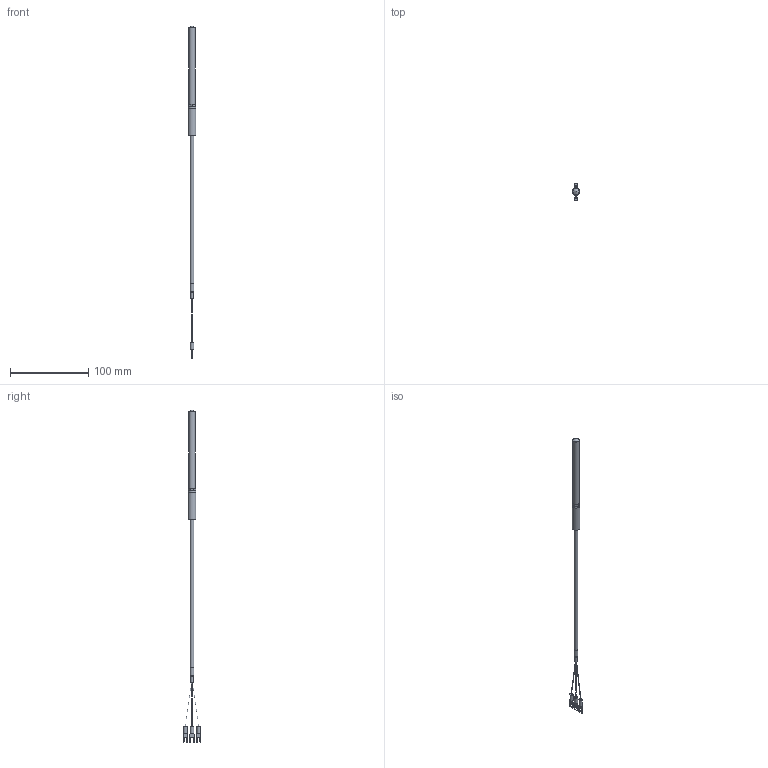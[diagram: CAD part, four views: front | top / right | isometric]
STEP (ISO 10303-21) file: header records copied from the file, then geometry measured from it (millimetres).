
FILE_DESCRIPTION (( 'STEP AP203' ), '1' );
FILE_NAME ('YIR101-7(0).STEP', '2024-09-26T07:46:30', ( '' ), ( '' ), 'SwSTEP 2.0', 'SolidWorks 2021', '' );
FILE_SCHEMA (( 'CONFIG_CONTROL_DESIGN' ));
Length unit declared in the file: millimetre
Products named in the file (1): YIR101-7(0)
Bounding box: 10 x 22.96 x 424.72 mm (x, y, z)
Volume: 12280.7 mm3; surface area: 8035.8 mm2
Topology: 1 solids, 1 shells, 87 faces, 213 edges, 139 vertices
Faces by surface type: plane 46, cylinder 30, bspline 8, cone 2, torus 1
Full cylindrical faces by diameter (mm): 0.5 x1, 3.16 x1, 4.5 x3, 4.8 x1, 5 x1, 8 x1, 10 x1
Entity records: 2737 total; most frequent: CARTESIAN_POINT 668, DIRECTION 408, ORIENTED_EDGE 392, EDGE_CURVE 196, AXIS2_PLACEMENT_3D 144, VERTEX_POINT 136, LINE 120, VECTOR 120
